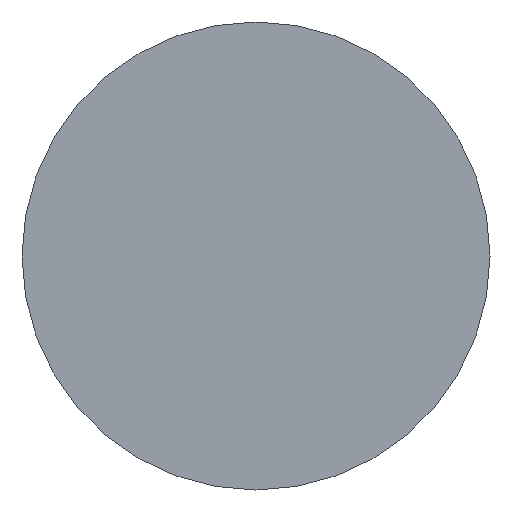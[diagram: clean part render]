
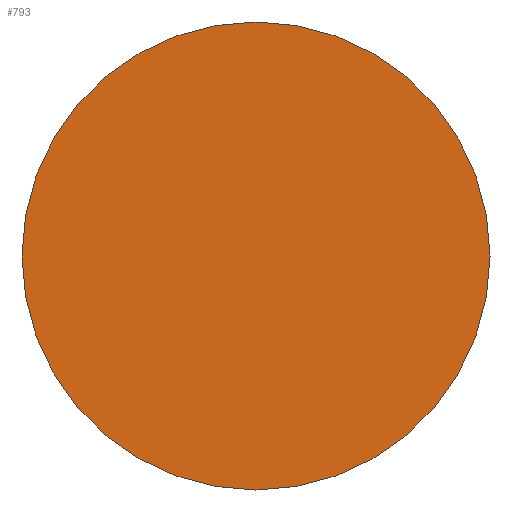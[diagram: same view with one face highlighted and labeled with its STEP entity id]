
A CAD part, left-side view. The second image highlights one B-rep face of the part: STEP entity #793.
In plain terms, the highlighted planar face has unit normal (-1, 0, 0).
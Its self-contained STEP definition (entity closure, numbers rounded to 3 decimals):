
#79 = CIRCLE ( 'NONE', #869, 16. ) ;
#108 = CARTESIAN_POINT ( 'NONE',  ( 0., 0., 0. ) ) ;
#112 = EDGE_CURVE ( 'NONE', #853, #472, #79, .T. ) ;
#170 = PLANE ( 'NONE',  #708 ) ;
#175 = CARTESIAN_POINT ( 'NONE',  ( 0., 0., 0. ) ) ;
#225 = DIRECTION ( 'NONE',  ( -1., 0., 0. ) ) ;
#239 = CARTESIAN_POINT ( 'NONE',  ( 0., 0., 16. ) ) ;
#254 = ORIENTED_EDGE ( 'NONE', *, *, #112, .T. ) ;
#307 = FACE_OUTER_BOUND ( 'NONE', #787, .T. ) ;
#314 = EDGE_CURVE ( 'NONE', #472, #853, #799, .T. ) ;
#335 = CARTESIAN_POINT ( 'NONE',  ( 0., 0., -16. ) ) ;
#375 = DIRECTION ( 'NONE',  ( 0., 0., 1. ) ) ;
#419 = AXIS2_PLACEMENT_3D ( 'NONE', #175, #808, #882 ) ;
#467 = DIRECTION ( 'NONE',  ( 1., 0., 0. ) ) ;
#472 = VERTEX_POINT ( 'NONE', #335 ) ;
#708 = AXIS2_PLACEMENT_3D ( 'NONE', #108, #467, #747 ) ;
#747 = DIRECTION ( 'NONE',  ( 0., 0., -1. ) ) ;
#782 = CARTESIAN_POINT ( 'NONE',  ( 0., 0., 0. ) ) ;
#787 = EDGE_LOOP ( 'NONE', ( #254, #875 ) ) ;
#793 = ADVANCED_FACE ( 'NONE', ( #307 ), #170, .F. ) ;
#799 = CIRCLE ( 'NONE', #419, 16. ) ;
#808 = DIRECTION ( 'NONE',  ( -1., 0., 0. ) ) ;
#853 = VERTEX_POINT ( 'NONE', #239 ) ;
#869 = AXIS2_PLACEMENT_3D ( 'NONE', #782, #225, #375 ) ;
#875 = ORIENTED_EDGE ( 'NONE', *, *, #314, .T. ) ;
#882 = DIRECTION ( 'NONE',  ( 0., 0., 1. ) ) ;
